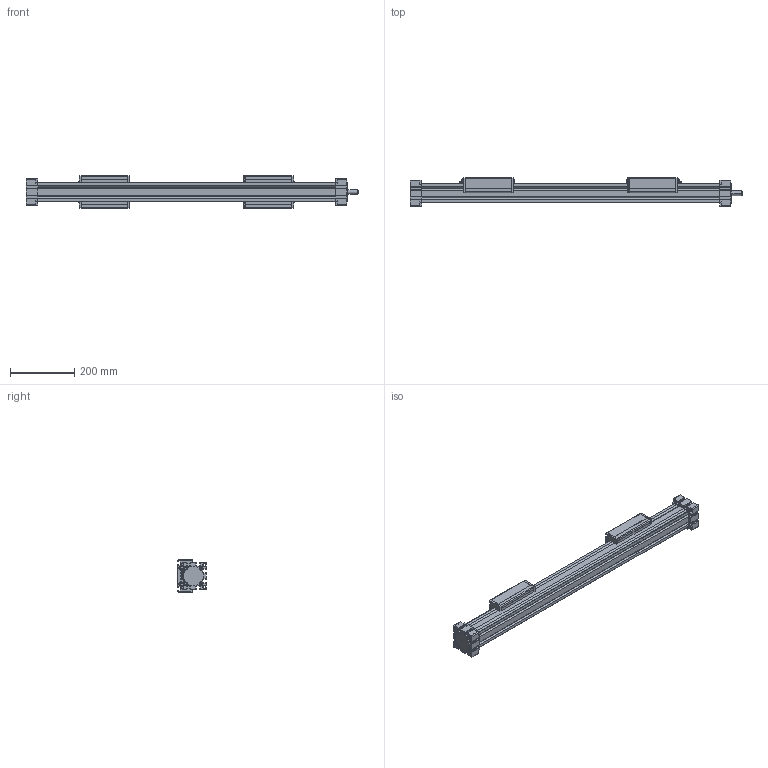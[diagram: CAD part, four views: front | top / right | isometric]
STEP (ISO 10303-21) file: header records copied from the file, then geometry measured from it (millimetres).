
FILE_DESCRIPTION (( 'STEP AP214' ), '1' );
FILE_NAME ('EGTK-60-RL.STEP', '2016-01-14T08:00:26', ( 'admin' ), ( '' ), 'SwSTEP 2.0', 'SolidWorks 2015', '' );
FILE_SCHEMA (( 'AUTOMOTIVE_DESIGN' ));
Length unit declared in the file: millimetre
Products named in the file (6): Kopie von Bahr-EGT-EGK-RL-EGT-60  3  0 0 0  0 0 0  904  Q=165_EGTK End Block 60 (A)^EGT(K)60RL S0 A0_EGTK-60 End Block 0-2; EGTK-60-RL; Kopie von Bahr-EGT-EGK-RL-EGT-60  3  0 0 0  0 0 0  904  Q=165_Cover Band^EGT(K)60RL S0 A0; Kopie von Bahr-EGT-EGK-RL-EGT-60  3  0 0 0  0 0 0  904  Q=165_EG60 Carriage^EGT(K)60RL S0 A0_A; Kopie von Bahr-EGT-EGK-RL-EGT-60  3  0 0 0  0 0 0  904  Q=165_EGTK End Block 60 (B)^EGT(K)60RL S0 A0_EGTK-60 End Block 0-0; Kopie von Bahr-EGT-EGK-RL-EGT-60  3  0 0 0  0 0 0  904  Q=165_EG60 Extrusion^EGT(K)60RL S0 A0
Assembly tree (6 placements, depth 2):
  EGTK-60-RL
    Kopie von Bahr-EGT-EGK-RL-EGT-60  3  0 0 0  0 0 0  904  Q=165_EGTK End Block 60 (A)^EGT(K)60RL S0 A0_EGTK-60 End Block 0-2
    Kopie von Bahr-EGT-EGK-RL-EGT-60  3  0 0 0  0 0 0  904  Q=165_EG60 Extrusion^EGT(K)60RL S0 A0
    Kopie von Bahr-EGT-EGK-RL-EGT-60  3  0 0 0  0 0 0  904  Q=165_EGTK End Block 60 (B)^EGT(K)60RL S0 A0_EGTK-60 End Block 0-0
    Kopie von Bahr-EGT-EGK-RL-EGT-60  3  0 0 0  0 0 0  904  Q=165_EG60 Carriage^EGT(K)60RL S0 A0_A  x2
    Kopie von Bahr-EGT-EGK-RL-EGT-60  3  0 0 0  0 0 0  904  Q=165_Cover Band^EGT(K)60RL S0 A0
Bounding box: 1036 x 90 x 100 mm (x, y, z)
Volume: 4167650 mm3; surface area: 561456.9 mm2
Topology: 10 solids, 12 shells, 1214 faces, 3429 edges, 2247 vertices
Faces by surface type: plane 886, cylinder 249, torus 40, cone 35, sphere 4
Entity records: 32994 total; most frequent: CARTESIAN_POINT 5737, ORIENTED_EDGE 5538, DIRECTION 5226, EDGE_CURVE 2769, LINE 2228, VECTOR 2228, VERTEX_POINT 1822, AXIS2_PLACEMENT_3D 1499
